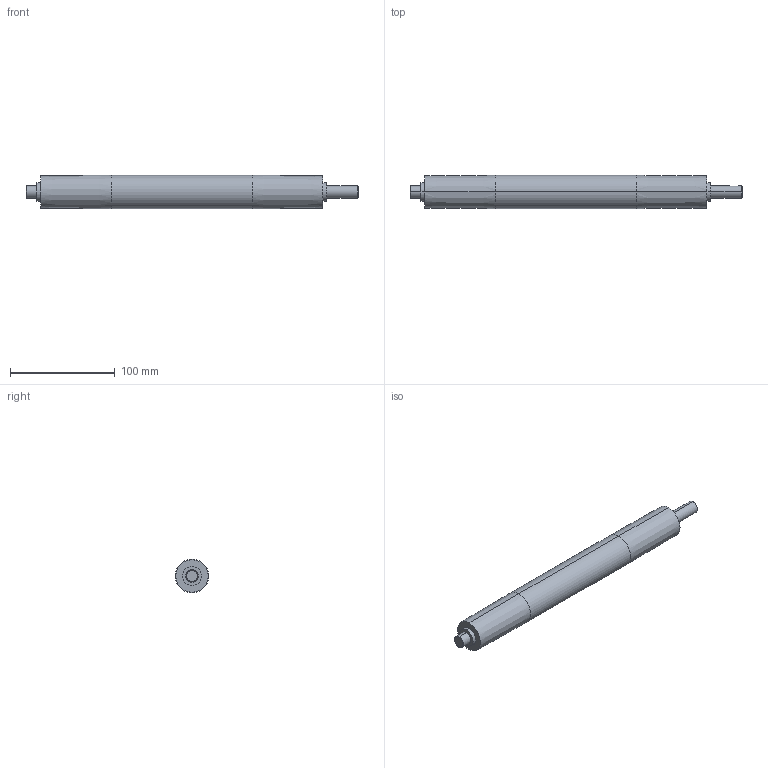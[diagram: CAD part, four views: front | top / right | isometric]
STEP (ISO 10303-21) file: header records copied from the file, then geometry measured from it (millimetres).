
FILE_DESCRIPTION (( 'STEP AP203' ), '1' );
FILE_NAME ('084.801.052.STEP', '2013-01-31T15:39:42', ( 'Alusic' ), ( 'Alusic' ), 'SwSTEP 2.0', 'SolidWorks 2011', '' );
FILE_SCHEMA (( 'CONFIG_CONTROL_DESIGN' ));
Length unit declared in the file: millimetre
Products named in the file (1): 084.801.052
Bounding box: 317.5 x 32 x 32 mm (x, y, z)
Volume: 219785.2 mm3; surface area: 30648.6 mm2
Topology: 1 solids, 1 shells, 33 faces, 68 edges, 41 vertices
Faces by surface type: cylinder 14, cone 10, plane 9
Entity records: 993 total; most frequent: CARTESIAN_POINT 199, DIRECTION 166, ORIENTED_EDGE 132, AXIS2_PLACEMENT_3D 68, EDGE_CURVE 66, VERTEX_POINT 41, EDGE_LOOP 39, CIRCLE 34
